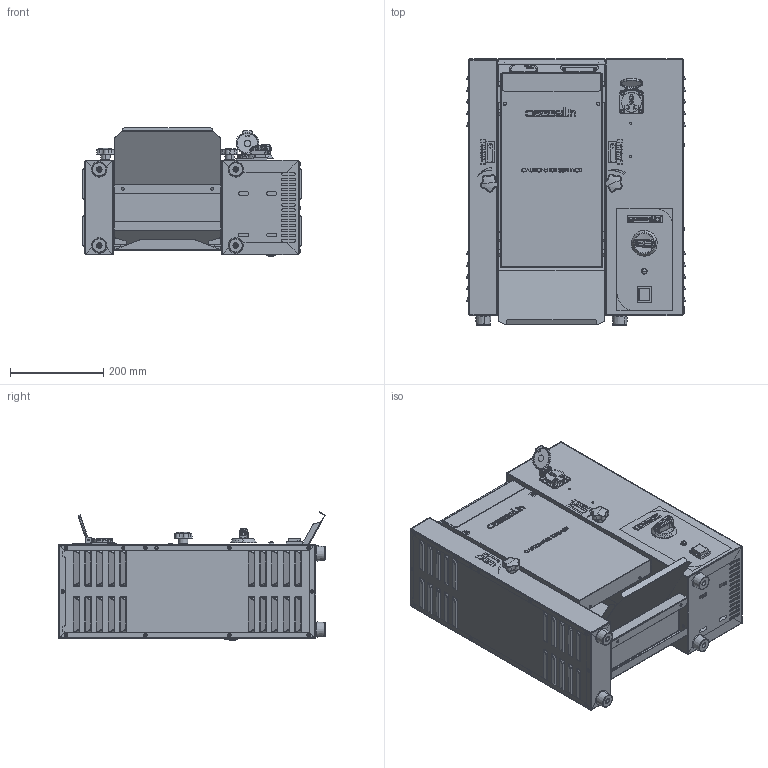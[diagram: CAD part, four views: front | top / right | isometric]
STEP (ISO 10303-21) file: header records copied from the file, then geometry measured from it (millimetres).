
FILE_DESCRIPTION (( 'STEP AP214' ), '1' );
FILE_NAME ('pres-CTV300.STEP', '2025-01-29T15:58:18', ( '' ), ( '' ), 'SwSTEP 2.0', 'SolidWorks 2025', '' );
FILE_SCHEMA (( 'AUTOMOTIVE_DESIGN' ));
Length unit declared in the file: millimetre
Products named in the file (74): __________________-1-solid1_1300___________________-1-solid1_1; Etiquette-ep-gauche-toasteur-vertical-sans-chiffre-Symetrique; spring lock washers--normal type gb-1-solid1_1300_spring lock washers--normal type gb-1-solid1_1; M01____ __-1-solid1_1300_M01____ __-1-solid1_1; pres-CTV300; cross recessed pan head screws gb-68-solid1_1300_cross recessed pan head screws gb-68-solid1_1; PA10139-1_5300_PA10139-1_5; PA10139-1 ______________-1-solid1_1300_PA10139-1 ______________-1-solid1_1; PA10139 ______________-6-solid1_1300_PA10139 ______________-6-solid1_1; PA10139 __________-1-solid1_1300_PA10139 __________-1-solid1_1; Etiquette-logo-casselin-toasteur-vertical; IP55________ -1-solid6_1300_IP55________ -1-solid6_1; ________-1-solid1_1300_________-1-solid1_1; PA10139-1 __________-1-solid1_1300_PA10139-1 __________-1-solid1_1; M01____ ________-1-solid1_1300_M01____ ________-1-solid1_1; cross recessed pan head screws gb-67-solid1_1300_cross recessed pan head screws gb-67-solid1_1; PA10139 ______-1-solid1_1300_PA10139 ______-1-solid1_1; IP55________ -1-solid2_1300_IP55________ -1-solid2_1; plain washers--product grade c gb-15-solid1_1300_plain washers--product grade c gb-15-solid1_1; PA10139-1 ______-1-solid1_2300_PA10139-1 ______-1-solid1_2; angle-logo-bleu-toasteur-vertical; PA10139 ______________-4-solid1_1300_PA10139 ______________-4-solid1_1; IP55________ -1-solid5_1300_IP55________ -1-solid5_1; PA10139-1_2300_PA10139-1_2; Etiquette-ep-gauche-toasteur-vertical-chiffre; M01____ __-1-solid1_2300_M01____ __-1-solid1_2; PA10139-1 ____________-1-solid1_1300_PA10139-1 ____________-1-solid1_1; plain washers--product grade c gb-1-solid1_1300_plain washers--product grade c gb-1-solid1_1; PA10139-1_1300_PA10139-1_1; PA10139 ________-2-solid1_1300_PA10139 ________-2-solid1_1; cross recessed pan head screws gb-63-solid1_1300_cross recessed pan head screws gb-63-solid1_1; PA10139-1 ______-1-solid1_1_1300_PA10139-1 ______-1-solid1_1_1; __________-1-solid1_2300___________-1-solid1_2; ______________-1-solid1_1300_______________-1-solid1_1; M01____ ____-1-solid1_1300_M01____ ____-1-solid1_1; __________U____-1-solid1_1300___________U____-1-solid1_1; M01____ ____-1-solid1_2300_M01____ ____-1-solid1_2; PA10139-1_4300_PA10139-1_4; PA10139 ______________-2-solid1_1300_PA10139 ______________-2-solid1_1; LOGO-CASSELIN-toasteur-vertical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
Assembly tree (78 placements, depth 3):
  pres-CTV300
    cross recessed pan head screws gb-69-solid1_1300_cross recessed pan head screws gb-69-solid1_1
    IP55________ -1-solid6_1300_IP55________ -1-solid6_1
    M01____ __-1-solid1_1300_M01____ __-1-solid1_1
    IP55________-1-solid1_1300_IP55________-1-solid1_1
    PA10139 __________-2-solid1_1300_PA10139 __________-2-solid1_1
    M8____ ________-1-solid1_1300_M8____ ________-1-solid1_1
    M01____ __-1-solid1_2300_M01____ __-1-solid1_2
    __________U____-2-solid1_1300___________U____-2-solid1_1
    PA10139-1 ____________-1-solid1_1300_PA10139-1 ____________-1-solid1_1
    PA10139 ______________-1-solid1_1300_PA10139 ______________-1-solid1_1
    __________-1-solid1_1300___________-1-solid1_1
    PA10139-1_1300_PA10139-1_1
    cross recessed pan head screws gb-63-solid1_1300_cross recessed pan head screws gb-63-solid1_1
    cross recessed pan head screws gb-66-solid1_1300_cross recessed pan head screws gb-66-solid1_1
    PA10139-1 ________________-4-solid1_1300_PA10139-1 ________________-4-solid1_1
    __________-1-solid1_2300___________-1-solid1_2
    PA10139-1 ________________-1-solid1_1300_PA10139-1 ________________-1-solid1_1
    IP55________ -1-solid4_1300_IP55________ -1-solid4_1
    PA10139 ______-1-solid1_1300_PA10139 ______-1-solid1_1
    PA10139-1_2300_PA10139-1_2
    PA10139-1_3300_PA10139-1_3
    IP55______-1-solid1_1300_IP55______-1-solid1_1
    M8____ ________-1-solid1_1_1300_M8____ ________-1-solid1_1_1
    PA10139-1 __________-1-solid1_1300_PA10139-1 __________-1-solid1_1
    IP55________ -1-solid2_1300_IP55________ -1-solid2_1
    PA10139-1 ______-1-solid1_2300_PA10139-1 ______-1-solid1_2
    cross recessed pan head screws gb-64-solid1_1300_cross recessed pan head screws gb-64-solid1_1
    PA10139-1 ________________-3-solid1_1300_PA10139-1 ________________-3-solid1_1
    IP55________-1-solid1_2300_IP55________-1-solid1_2
    plain washers--product grade c gb-14-solid1_1300_plain washers--product grade c gb-14-solid1_1
    PA10139-1 ____-1-solid1_1300_PA10139-1 ____-1-solid1_1
    PA10139-1_4300_PA10139-1_4
    plain washers--product grade c gb-15-solid1_1300_plain washers--product grade c gb-15-solid1_1
    __________________-1-solid1_1300___________________-1-solid1_1
    PA10139 ______-1-solid1_2300_PA10139 ______-1-solid1_2
    ________-1-solid1_1300_________-1-solid1_1
    spring lock washers--normal type gb-1-solid1_1300_spring lock washers--normal type gb-1-solid1_1
    PA10139 ________-2-solid1_1300_PA10139 ________-2-solid1_1
    cross recessed pan head screws gb-62-solid1_1300_cross recessed pan head screws gb-62-solid1_1
    cross recessed pan head screws gb-68-solid1_1300_cross recessed pan head screws gb-68-solid1_1
    plain washers--product grade c gb-1-solid1_1300_plain washers--product grade c gb-1-solid1_1
    PA10139-1 ______-1-solid1_3300_PA10139-1 ______-1-solid1_3
    PA10139 ______________-4-solid1_1300_PA10139 ______________-4-solid1_1
    PA10139-1 ______________-1-solid1_1300_PA10139-1 ______________-1-solid1_1
    M01____ ____-1-solid1_1300_M01____ ____-1-solid1_1
    PA10139 ______________-2-solid1_1300_PA10139 ______________-2-solid1_1
    cross recessed pan head screws gb-70-solid1_1300_cross recessed pan head screws gb-70-solid1_1
    __________U____-1-solid1_1300___________U____-1-solid1_1
    PA10139-1_5300_PA10139-1_5
    IP55________ -1-solid7_1300_IP55________ -1-solid7_1
    PA10139-1 ______-1-solid1_1_1300_PA10139-1 ______-1-solid1_1_1
    IP55________ -1-solid1_1300_IP55________ -1-solid1_1
    IP55________ -1-solid3_1300_IP55________ -1-solid3_1
    cross recessed pan head screws gb-65-solid1_1300_cross recessed pan head screws gb-65-solid1_1
    PA10139 __________-1-solid1_1300_PA10139 __________-1-solid1_1
    cross recessed pan head screws gb-67-solid1_1300_cross recessed pan head screws gb-67-solid1_1
    IP55________ -1-solid5_1300_IP55________ -1-solid5_1
    M01____ ________-1-solid1_1300_M01____ ________-1-solid1_1
    PA10139 ________-1-solid1_1300_PA10139 ________-1-solid1_1
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Bounding box: 469.86 x 570.14 x 274.29 mm (x, y, z)
Volume: 1452698.9 mm3; surface area: 2936624.8 mm2
Topology: 120 solids, 126 shells, 5572 faces, 13732 edges, 8575 vertices
Faces by surface type: plane 2664, cylinder 1710, bspline 859, cone 222, torus 87, sphere 30
Entity records: 218892 total; most frequent: CARTESIAN_POINT 78600, ORIENTED_EDGE 26520, DIRECTION 23501, EDGE_CURVE 13260, VERTEX_POINT 8286, AXIS2_PLACEMENT_3D 7988, VECTOR 7525, LINE 7525
